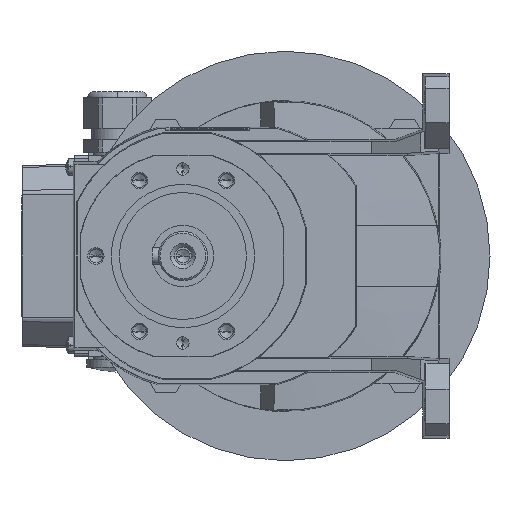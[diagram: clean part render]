
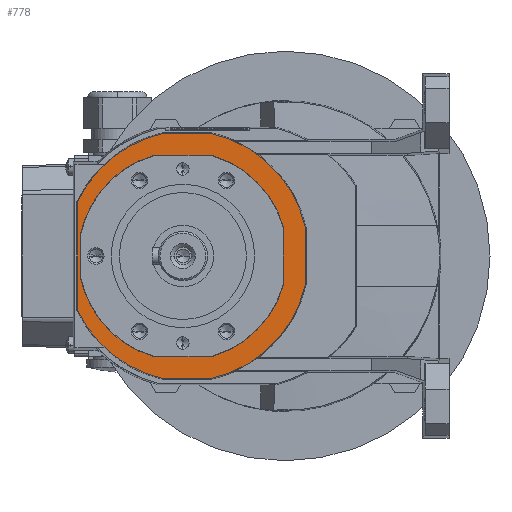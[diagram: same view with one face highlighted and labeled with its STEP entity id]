
A CAD part, left-side view. The second image highlights one B-rep face of the part: STEP entity #778.
In plain terms, the highlighted planar face has unit normal (-1, 0, 0).
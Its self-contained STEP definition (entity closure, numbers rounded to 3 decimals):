
#778 = ADVANCED_FACE( '', ( #3302, #3303 ), #3304, .T. );
#3302 = FACE_BOUND( '', #8012, .T. );
#3303 = FACE_OUTER_BOUND( '', #8013, .T. );
#3304 = PLANE( '', #8014 );
#8012 = EDGE_LOOP( '', ( #14067, #14068, #14069, #14070, #14071, #14072, #14073, #14074 ) );
#8013 = EDGE_LOOP( '', ( #14075, #14076, #14077, #14078, #14079, #14080, #14081, #14082 ) );
#8014 = AXIS2_PLACEMENT_3D( '', #14083, #14084, #14085 );
#14067 = ORIENTED_EDGE( '', *, *, #32055, .T. );
#14068 = ORIENTED_EDGE( '', *, *, #32043, .F. );
#14069 = ORIENTED_EDGE( '', *, *, #32097, .T. );
#14070 = ORIENTED_EDGE( '', *, *, #32065, .T. );
#14071 = ORIENTED_EDGE( '', *, *, #32053, .T. );
#14072 = ORIENTED_EDGE( '', *, *, #32048, .T. );
#14073 = ORIENTED_EDGE( '', *, *, #31642, .T. );
#14074 = ORIENTED_EDGE( '', *, *, #31620, .F. );
#14075 = ORIENTED_EDGE( '', *, *, #32060, .T. );
#14076 = ORIENTED_EDGE( '', *, *, #31626, .T. );
#14077 = ORIENTED_EDGE( '', *, *, #31650, .T. );
#14078 = ORIENTED_EDGE( '', *, *, #32046, .T. );
#14079 = ORIENTED_EDGE( '', *, *, #32059, .F. );
#14080 = ORIENTED_EDGE( '', *, *, #32073, .T. );
#14081 = ORIENTED_EDGE( '', *, *, #32076, .F. );
#14082 = ORIENTED_EDGE( '', *, *, #32052, .T. );
#14083 = CARTESIAN_POINT( '', ( -86., 46., -30.75 ) );
#14084 = DIRECTION( '', ( -1., 0., 0. ) );
#14085 = DIRECTION( '', ( 0., 0., 1. ) );
#31620 = EDGE_CURVE( '', #37931, #37934, #37935, .T. );
#31626 = EDGE_CURVE( '', #37940, #37944, #37946, .T. );
#31642 = EDGE_CURVE( '', #37968, #37934, #37969, .T. );
#31650 = EDGE_CURVE( '', #37944, #37981, #37983, .T. );
#32043 = EDGE_CURVE( '', #38622, #38624, #38625, .T. );
#32046 = EDGE_CURVE( '', #37981, #38627, #38629, .T. );
#32048 = EDGE_CURVE( '', #38630, #37968, #38632, .T. );
#32052 = EDGE_CURVE( '', #38634, #38638, #38640, .T. );
#32053 = EDGE_CURVE( '', #38641, #38630, #38642, .T. );
#32055 = EDGE_CURVE( '', #37931, #38624, #38644, .T. );
#32059 = EDGE_CURVE( '', #38649, #38627, #38651, .T. );
#32060 = EDGE_CURVE( '', #38638, #37940, #38652, .T. );
#32065 = EDGE_CURVE( '', #38660, #38641, #38661, .T. );
#32073 = EDGE_CURVE( '', #38649, #38673, #38675, .T. );
#32076 = EDGE_CURVE( '', #38634, #38673, #38678, .T. );
#32097 = EDGE_CURVE( '', #38622, #38660, #38705, .T. );
#37931 = VERTEX_POINT( '', #48299 );
#37934 = VERTEX_POINT( '', #48311 );
#37935 = LINE( '', #48312, #48313 );
#37940 = VERTEX_POINT( '', #48328 );
#37944 = VERTEX_POINT( '', #48342 );
#37946 = LINE( '', #48353, #48354 );
#37968 = VERTEX_POINT( '', #48379 );
#37969 = CIRCLE( '', #48380, 51.175 );
#37981 = VERTEX_POINT( '', #48412 );
#37983 = CIRCLE( '', #48423, 61.501 );
#38622 = VERTEX_POINT( '', #49636 );
#38624 = VERTEX_POINT( '', #49647 );
#38625 = LINE( '', #49648, #49649 );
#38627 = VERTEX_POINT( '', #49660 );
#38629 = LINE( '', #49671, #49672 );
#38630 = VERTEX_POINT( '', #49673 );
#38632 = LINE( '', #49684, #49685 );
#38634 = VERTEX_POINT( '', #49687 );
#38638 = VERTEX_POINT( '', #49701 );
#38640 = LINE( '', #49712, #49713 );
#38641 = VERTEX_POINT( '', #49714 );
#38642 = CIRCLE( '', #49715, 51.175 );
#38644 = CIRCLE( '', #49726, 51.175 );
#38649 = VERTEX_POINT( '', #49731 );
#38651 = CIRCLE( '', #49735, 61.501 );
#38652 = CIRCLE( '', #49736, 61.501 );
#38660 = VERTEX_POINT( '', #49748 );
#38661 = LINE( '', #49749, #49750 );
#38673 = VERTEX_POINT( '', #49776 );
#38675 = LINE( '', #49780, #49781 );
#38678 = CIRCLE( '', #49786, 61.501 );
#38705 = CIRCLE( '', #49819, 51.175 );
#48299 = CARTESIAN_POINT( '', ( -86., 0.756, -13.922 ) );
#48311 = CARTESIAN_POINT( '', ( -86., 0.756, 13.922 ) );
#48312 = CARTESIAN_POINT( '', ( -86., 0.756, -40. ) );
#48313 = VECTOR( '', #65085, 1. );
#48328 = CARTESIAN_POINT( '', ( -86., -10., -13.504 ) );
#48342 = CARTESIAN_POINT( '', ( -86., -10., 13.504 ) );
#48353 = CARTESIAN_POINT( '', ( -86., -10., -35.375 ) );
#48354 = VECTOR( '', #65088, 1. );
#48379 = CARTESIAN_POINT( '', ( -86., 36.078, 49.244 ) );
#48380 = AXIS2_PLACEMENT_3D( '', #65128, #65129, #65130 );
#48412 = CARTESIAN_POINT( '', ( -86., 36.496, 60. ) );
#48423 = AXIS2_PLACEMENT_3D( '', #65140, #65141, #65142 );
#49636 = CARTESIAN_POINT( '', ( -86., 63.922, -49.244 ) );
#49647 = CARTESIAN_POINT( '', ( -86., 36.078, -49.244 ) );
#49648 = CARTESIAN_POINT( '', ( -86., 100., -49.244 ) );
#49649 = VECTOR( '', #65643, 1. );
#49660 = CARTESIAN_POINT( '', ( -86., 59.504, 60. ) );
#49671 = CARTESIAN_POINT( '', ( -86., 73., 60. ) );
#49672 = VECTOR( '', #65644, 1. );
#49673 = CARTESIAN_POINT( '', ( -86., 63.922, 49.244 ) );
#49684 = CARTESIAN_POINT( '', ( -86., 100., 49.244 ) );
#49685 = VECTOR( '', #65645, 1. );
#49687 = CARTESIAN_POINT( '', ( -86., 59.504, -60. ) );
#49701 = CARTESIAN_POINT( '', ( -86., 36.496, -60. ) );
#49712 = CARTESIAN_POINT( '', ( -86., 73., -60. ) );
#49713 = VECTOR( '', #65647, 1. );
#49714 = CARTESIAN_POINT( '', ( -86., 100.244, 9.713 ) );
#49715 = AXIS2_PLACEMENT_3D( '', #65648, #65649, #65650 );
#49726 = AXIS2_PLACEMENT_3D( '', #65651, #65652, #65653 );
#49731 = CARTESIAN_POINT( '', ( -86., 101.5, 26.497 ) );
#49735 = AXIS2_PLACEMENT_3D( '', #65660, #65661, #65662 );
#49736 = AXIS2_PLACEMENT_3D( '', #65663, #65664, #65665 );
#49748 = CARTESIAN_POINT( '', ( -86., 100.244, -9.713 ) );
#49749 = CARTESIAN_POINT( '', ( -86., 100.244, -70. ) );
#49750 = VECTOR( '', #65672, 1. );
#49776 = CARTESIAN_POINT( '', ( -86., 101.5, -26.497 ) );
#49780 = CARTESIAN_POINT( '', ( -86., 101.5, -50.375 ) );
#49781 = VECTOR( '', #65678, 1. );
#49786 = AXIS2_PLACEMENT_3D( '', #65681, #65682, #65683 );
#49819 = AXIS2_PLACEMENT_3D( '', #65732, #65733, #65734 );
#65085 = DIRECTION( '', ( 0., 0., 1. ) );
#65088 = DIRECTION( '', ( 0., 0., 1. ) );
#65128 = CARTESIAN_POINT( '', ( -86., 50., 0. ) );
#65129 = DIRECTION( '', ( 1., 0., 0. ) );
#65130 = DIRECTION( '', ( 0., 1., 0. ) );
#65140 = CARTESIAN_POINT( '', ( -86., 50., 0. ) );
#65141 = DIRECTION( '', ( -1., 0., 0. ) );
#65142 = DIRECTION( '', ( 0., 0., -1. ) );
#65643 = DIRECTION( '', ( 0., -1., 0. ) );
#65644 = DIRECTION( '', ( 0., 1., 0. ) );
#65645 = DIRECTION( '', ( 0., -1., 0. ) );
#65647 = DIRECTION( '', ( 0., -1., 0. ) );
#65648 = CARTESIAN_POINT( '', ( -86., 50., 0. ) );
#65649 = DIRECTION( '', ( 1., 0., 0. ) );
#65650 = DIRECTION( '', ( 0., 1., 0. ) );
#65651 = CARTESIAN_POINT( '', ( -86., 50., 0. ) );
#65652 = DIRECTION( '', ( 1., 0., 0. ) );
#65653 = DIRECTION( '', ( 0., 1., 0. ) );
#65660 = CARTESIAN_POINT( '', ( -86., 46., 0. ) );
#65661 = DIRECTION( '', ( 1., 0., 0. ) );
#65662 = DIRECTION( '', ( 0., 0., -1. ) );
#65663 = CARTESIAN_POINT( '', ( -86., 50., 0. ) );
#65664 = DIRECTION( '', ( -1., 0., 0. ) );
#65665 = DIRECTION( '', ( 0., 0., -1. ) );
#65672 = DIRECTION( '', ( 0., 0., 1. ) );
#65678 = DIRECTION( '', ( 0., 0., -1. ) );
#65681 = CARTESIAN_POINT( '', ( -86., 46., 0. ) );
#65682 = DIRECTION( '', ( 1., 0., 0. ) );
#65683 = DIRECTION( '', ( 0., 0., -1. ) );
#65732 = CARTESIAN_POINT( '', ( -86., 50., 0. ) );
#65733 = DIRECTION( '', ( 1., 0., 0. ) );
#65734 = DIRECTION( '', ( 0., 1., 0. ) );
